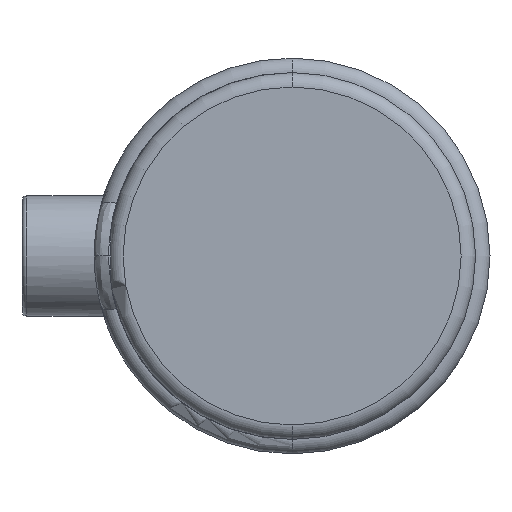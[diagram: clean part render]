
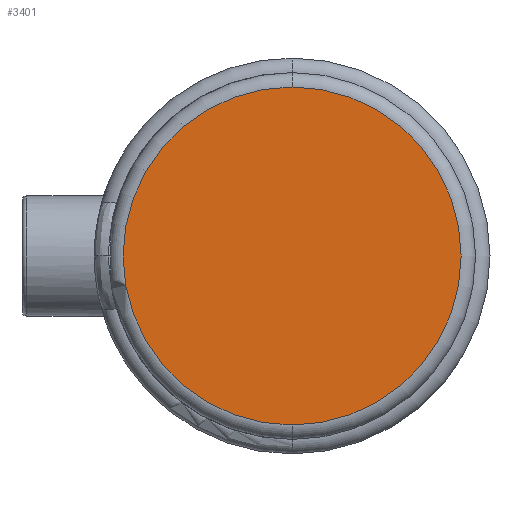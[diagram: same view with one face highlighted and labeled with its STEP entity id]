
A CAD part, left-side view. The second image highlights one B-rep face of the part: STEP entity #3401.
In plain terms, the highlighted planar face has unit normal (-1, 0, 0).
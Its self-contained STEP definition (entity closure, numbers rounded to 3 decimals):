
#310 = CARTESIAN_POINT ( 'NONE',  ( 0., 0., 0. ) ) ;
#989 = CIRCLE ( 'NONE', #2379, 35.1 ) ;
#1206 = DIRECTION ( 'NONE',  ( -1., 0., 0. ) ) ;
#1246 = DIRECTION ( 'NONE',  ( 0., 0., 1. ) ) ;
#1432 = EDGE_LOOP ( 'NONE', ( #1640, #3289 ) ) ;
#1640 = ORIENTED_EDGE ( 'NONE', *, *, #3864, .T. ) ;
#1765 = CARTESIAN_POINT ( 'NONE',  ( 0., 0., 35.1 ) ) ;
#1769 = CIRCLE ( 'NONE', #4166, 35.1 ) ;
#1848 = FACE_OUTER_BOUND ( 'NONE', #1432, .T. ) ;
#1989 = VERTEX_POINT ( 'NONE', #3347 ) ;
#2326 = CARTESIAN_POINT ( 'NONE',  ( 0., 0., 0. ) ) ;
#2379 = AXIS2_PLACEMENT_3D ( 'NONE', #2326, #5411, #2784 ) ;
#2784 = DIRECTION ( 'NONE',  ( 0., 0., 1. ) ) ;
#3289 = ORIENTED_EDGE ( 'NONE', *, *, #3998, .T. ) ;
#3347 = CARTESIAN_POINT ( 'NONE',  ( 0., 0., -35.1 ) ) ;
#3401 = ADVANCED_FACE ( 'NONE', ( #1848 ), #5226, .T. ) ;
#3864 = EDGE_CURVE ( 'NONE', #5323, #1989, #989, .T. ) ;
#3932 = CARTESIAN_POINT ( 'NONE',  ( 0., 0., 0. ) ) ;
#3956 = DIRECTION ( 'NONE',  ( -1., 0., 0. ) ) ;
#3998 = EDGE_CURVE ( 'NONE', #1989, #5323, #1769, .T. ) ;
#4001 = AXIS2_PLACEMENT_3D ( 'NONE', #310, #3956, #1246 ) ;
#4166 = AXIS2_PLACEMENT_3D ( 'NONE', #3932, #1206, #4353 ) ;
#4353 = DIRECTION ( 'NONE',  ( 0., 0., 1. ) ) ;
#5226 = PLANE ( 'NONE',  #4001 ) ;
#5323 = VERTEX_POINT ( 'NONE', #1765 ) ;
#5411 = DIRECTION ( 'NONE',  ( -1., 0., 0. ) ) ;
